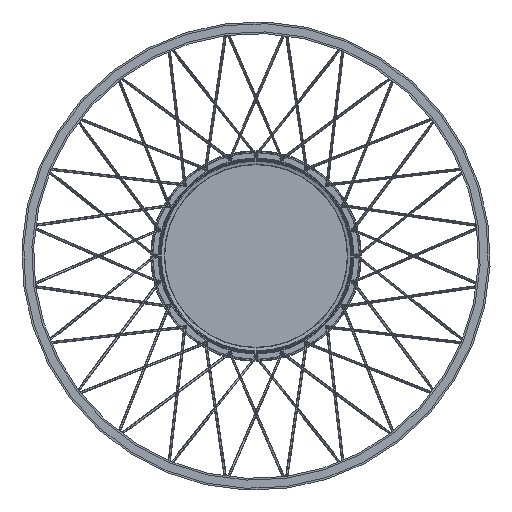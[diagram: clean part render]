
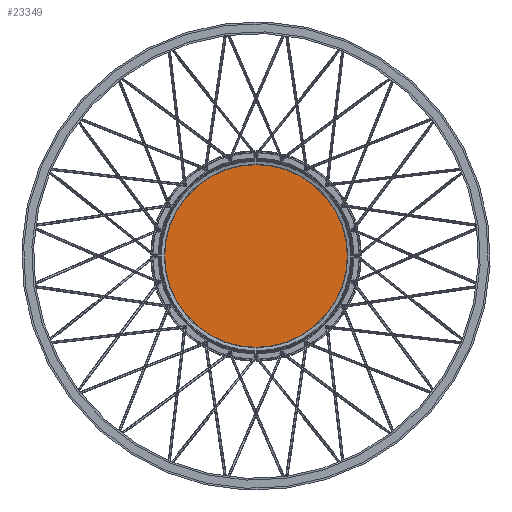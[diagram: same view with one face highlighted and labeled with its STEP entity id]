
A CAD part, front view. The second image highlights one B-rep face of the part: STEP entity #23349.
In plain terms, the highlighted planar face has unit normal (0, -1, 0).
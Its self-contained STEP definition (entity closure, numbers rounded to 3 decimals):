
#153 = AXIS2_PLACEMENT_3D ( 'NONE', #43518, #35388, #23081 ) ;
#3496 = VERTEX_POINT ( 'NONE', #11019 ) ;
#11019 = CARTESIAN_POINT ( 'NONE',  ( 0., 0., 81. ) ) ;
#11993 = DIRECTION ( 'NONE',  ( 0., 1., 0. ) ) ;
#17506 = CARTESIAN_POINT ( 'NONE',  ( 0., 0., 0. ) ) ;
#17862 = EDGE_CURVE ( 'NONE', #3496, #31270, #48456, .T. ) ;
#19929 = AXIS2_PLACEMENT_3D ( 'NONE', #42255, #11993, #30165 ) ;
#21850 = ORIENTED_EDGE ( 'NONE', *, *, #25993, .F. ) ;
#23081 = DIRECTION ( 'NONE',  ( 0., 0., 1. ) ) ;
#23349 = ADVANCED_FACE ( 'NONE', ( #45912 ), #38050, .F. ) ;
#24807 = CIRCLE ( 'NONE', #44947, 81. ) ;
#25993 = EDGE_CURVE ( 'NONE', #31270, #3496, #24807, .T. ) ;
#30165 = DIRECTION ( 'NONE',  ( 0., 0., 1. ) ) ;
#31270 = VERTEX_POINT ( 'NONE', #32905 ) ;
#32905 = CARTESIAN_POINT ( 'NONE',  ( 0., 0., -81. ) ) ;
#33769 = DIRECTION ( 'NONE',  ( 0., 0., 1. ) ) ;
#35388 = DIRECTION ( 'NONE',  ( 0., 1., 0. ) ) ;
#38050 = PLANE ( 'NONE',  #153 ) ;
#42255 = CARTESIAN_POINT ( 'NONE',  ( 0., 0., 0. ) ) ;
#43364 = ORIENTED_EDGE ( 'NONE', *, *, #17862, .F. ) ;
#43518 = CARTESIAN_POINT ( 'NONE',  ( 0., 0., 0. ) ) ;
#44947 = AXIS2_PLACEMENT_3D ( 'NONE', #17506, #49352, #33769 ) ;
#45912 = FACE_OUTER_BOUND ( 'NONE', #47075, .T. ) ;
#47075 = EDGE_LOOP ( 'NONE', ( #21850, #43364 ) ) ;
#48456 = CIRCLE ( 'NONE', #19929, 81. ) ;
#49352 = DIRECTION ( 'NONE',  ( 0., 1., 0. ) ) ;
